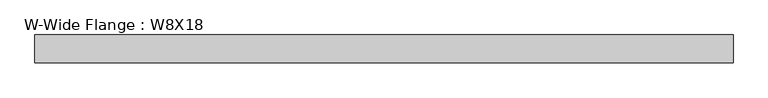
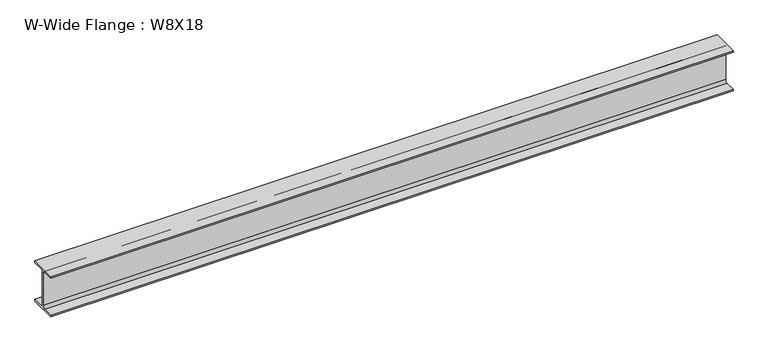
"""IFC4 building model written with IfcOpenShell, lengths in millimetres: beam geometry, W-Wide Flange : W8X18."""

from ifc_helpers import new_model, si_unit, point, frame, frame_2d, origin, place, context, project, spatial, polyline, circle_curve, trimmed, segment, composite_curve, outline, extrude, source, transform, mapped, element, save


def w_wide_flange_w8x18_57e2a91b(model_context):
    return source(origin(), model_context, "Body", "SweptSolid", [
        extrude(outline(composite_curve([segment(polyline([(66.675, -94.996), (66.675, -103.378), (-66.675, -103.378), (-66.675, -94.996), (-15.1765, -94.996)]), True, "CONTINUOUS"), segment(trimmed(circle_curve(frame_2d((-15.1765, -82.7405)), 12.2555), [point((-15.1765, -94.996))], [point((-2.921, -82.7405))], True, "CARTESIAN"), True, "CONTINUOUS"), segment(polyline([(-2.921, -82.7405), (-2.921, 82.7405)]), True, "CONTINUOUS"), segment(trimmed(circle_curve(frame_2d((-15.1765, 82.7405)), 12.2555), [point((-2.921, 82.7405))], [point((-15.1765, 94.996))], True, "CARTESIAN"), True, "CONTINUOUS"), segment(polyline([(-15.1765, 94.996), (-66.675, 94.996), (-66.675, 103.378), (66.675, 103.378), (66.675, 94.996), (15.1765, 94.996)]), True, "CONTINUOUS"), segment(trimmed(circle_curve(frame_2d((15.1765, 82.7405)), 12.2555), [point((15.1765, 94.996))], [point((2.921, 82.7405))], True, "CARTESIAN"), True, "CONTINUOUS"), segment(polyline([(2.921, 82.7405), (2.921, -82.7405)]), True, "CONTINUOUS"), segment(trimmed(circle_curve(frame_2d((15.1765, -82.7405)), 12.2555), [point((2.921, -82.7405))], [point((15.1765, -94.996))], True, "CARTESIAN"), True, "CONTINUOUS"), segment(polyline([(15.1765, -94.996), (66.675, -94.996)]), True, "CONTINUOUS")], self_intersect=False)), frame((-1658.9375, 0.0, 0.0), z_axis=(1.0, 0.0, 0.0), x_axis=(0.0, 1.0, 0.0)), (0.0, 0.0, 1.0), 3317.875),
    ])


if __name__ == "__main__":
    model = new_model("IFC4")
    model_context = context("Model", 3, world=origin())
    ifc_project = project(units=[si_unit("LENGTHUNIT", "METRE", prefix="MILLI")], contexts=[model_context])
    site = spatial("IfcSite", under=ifc_project)
    building = spatial("IfcBuilding", under=site)
    placement = place(None, origin())
    w_wide_flange_w8x18_shape = w_wide_flange_w8x18_57e2a91b(model_context)
    element("IfcBeam", 1, ObjectType="W-Wide Flange : W8X18", at=placement, inside=building, context=model_context, shape_type="MappedRepresentation", body=[
        mapped(w_wide_flange_w8x18_shape, transform((0.0, 0.0, 0.0), x_axis=(1.0, 0.0, 0.0), y_axis=(0.0, 1.0, 0.0), z_axis=(0.0, 0.0, 1.0))),
    ])
    save(model, "model.ifc")
